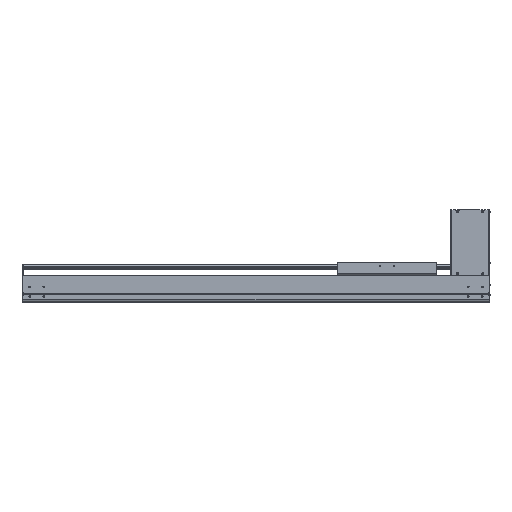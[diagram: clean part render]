
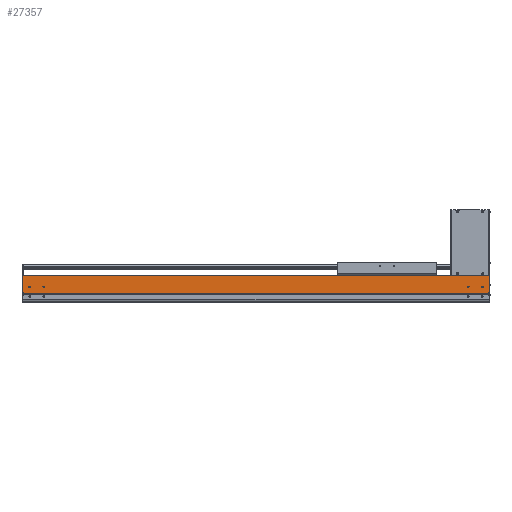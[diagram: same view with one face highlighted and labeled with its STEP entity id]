
A CAD part, top view. The second image highlights one B-rep face of the part: STEP entity #27357.
In plain terms, the highlighted planar face has unit normal (0, 0, 1).
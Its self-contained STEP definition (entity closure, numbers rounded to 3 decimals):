
#5003=DIRECTION('',(-1.,0.,0.));
#5004=VECTOR('',#5003,1648.5);
#5005=CARTESIAN_POINT('',(0.,93.5,107.));
#5006=LINE('',#5005,#5004);
#5042=CARTESIAN_POINT('',(0.,93.992,106.974));
#5043=CARTESIAN_POINT('',(0.,93.939,106.974));
#5044=CARTESIAN_POINT('',(0.,93.857,107.018));
#5045=CARTESIAN_POINT('',(0.,93.779,106.99));
#5046=CARTESIAN_POINT('',(0.,93.747,106.99));
#5048=CARTESIAN_POINT('',(0.,93.747,106.99));
#5049=CARTESIAN_POINT('',(0.,93.707,106.99));
#5050=CARTESIAN_POINT('',(0.,93.626,107.005));
#5051=CARTESIAN_POINT('',(0.,93.543,107.));
#5052=CARTESIAN_POINT('',(0.,93.5,107.));
#5054=CARTESIAN_POINT('',(-1623.5,54.,107.));
#5055=DIRECTION('',(0.,0.,-1.));
#5056=DIRECTION('',(1.,0.,0.));
#5057=AXIS2_PLACEMENT_3D('',#5054,#5055,#5056);
#5059=CARTESIAN_POINT('',(-1623.5,54.,107.));
#5060=DIRECTION('',(0.,0.,-1.));
#5061=DIRECTION('',(-1.,0.,0.));
#5062=AXIS2_PLACEMENT_3D('',#5059,#5060,#5061);
#5064=CARTESIAN_POINT('',(-1573.5,54.,107.));
#5065=DIRECTION('',(0.,0.,-1.));
#5066=DIRECTION('',(1.,0.,0.));
#5067=AXIS2_PLACEMENT_3D('',#5064,#5065,#5066);
#5069=CARTESIAN_POINT('',(-1573.5,54.,107.));
#5070=DIRECTION('',(0.,0.,-1.));
#5071=DIRECTION('',(-1.,0.,0.));
#5072=AXIS2_PLACEMENT_3D('',#5069,#5070,#5071);
#5074=CARTESIAN_POINT('',(-23.5,54.,107.));
#5075=DIRECTION('',(0.,0.,-1.));
#5076=DIRECTION('',(1.,0.,0.));
#5077=AXIS2_PLACEMENT_3D('',#5074,#5075,#5076);
#5079=CARTESIAN_POINT('',(-23.5,54.,107.));
#5080=DIRECTION('',(0.,0.,-1.));
#5081=DIRECTION('',(-1.,0.,0.));
#5082=AXIS2_PLACEMENT_3D('',#5079,#5080,#5081);
#5084=CARTESIAN_POINT('',(-73.5,54.,107.));
#5085=DIRECTION('',(0.,0.,-1.));
#5086=DIRECTION('',(1.,0.,0.));
#5087=AXIS2_PLACEMENT_3D('',#5084,#5085,#5086);
#5089=CARTESIAN_POINT('',(-73.5,54.,107.));
#5090=DIRECTION('',(0.,0.,-1.));
#5091=DIRECTION('',(-1.,0.,0.));
#5092=AXIS2_PLACEMENT_3D('',#5089,#5090,#5091);
#5094=DIRECTION('',(0.,-1.,0.));
#5095=VECTOR('',#5094,2.55);
#5096=CARTESIAN_POINT('',(-1646.5,34.65,107.));
#5097=LINE('',#5096,#5095);
#5098=DIRECTION('',(0.,-1.,0.));
#5099=VECTOR('',#5098,58.85);
#5100=CARTESIAN_POINT('',(-1648.5,93.5,107.));
#5101=LINE('',#5100,#5099);
#5102=DIRECTION('',(0.,1.,0.));
#5103=VECTOR('',#5102,58.35);
#5104=CARTESIAN_POINT('',(1.5,35.65,107.));
#5105=LINE('',#5104,#5103);
#5106=DIRECTION('',(0.,1.,0.));
#5107=VECTOR('',#5106,3.55);
#5108=CARTESIAN_POINT('',(0.,32.1,107.));
#5109=LINE('',#5108,#5107);
#5110=DIRECTION('',(1.,0.,0.));
#5111=VECTOR('',#5110,1646.5);
#5112=CARTESIAN_POINT('',(-1646.5,32.1,107.));
#5113=LINE('',#5112,#5111);
#5222=DIRECTION('',(1.,0.,0.));
#5223=VECTOR('',#5222,2.);
#5224=CARTESIAN_POINT('',(-1648.5,34.65,107.));
#5225=LINE('',#5224,#5223);
#5250=DIRECTION('',(-1.,-0.006,-0.017));
#5251=VECTOR('',#5250,1.5);
#5252=CARTESIAN_POINT('',(1.5,94.,107.));
#5253=LINE('',#5252,#5251);
#8770=DIRECTION('',(1.,0.,0.));
#8771=VECTOR('',#8770,1.5);
#8772=CARTESIAN_POINT('',(0.,35.65,107.));
#8773=LINE('',#8772,#8771);
#16136=CARTESIAN_POINT('',(1.5,94.,107.));
#16137=VERTEX_POINT('',#16136);
#16138=CARTESIAN_POINT('',(1.5,35.65,107.));
#16139=VERTEX_POINT('',#16138);
#16208=CARTESIAN_POINT('',(-1648.5,34.65,107.));
#16209=VERTEX_POINT('',#16208);
#16210=CARTESIAN_POINT('',(-1648.5,93.5,107.));
#16211=VERTEX_POINT('',#16210);
#16436=CARTESIAN_POINT('',(-1646.5,32.1,107.));
#16437=VERTEX_POINT('',#16436);
#16487=CARTESIAN_POINT('',(0.,32.1,107.));
#16489=VERTEX_POINT('',#16487);
#16982=CARTESIAN_POINT('',(-1621.,54.,107.));
#16983=CARTESIAN_POINT('',(-1626.,54.,107.));
#16984=VERTEX_POINT('',#16982);
#16985=VERTEX_POINT('',#16983);
#16986=CARTESIAN_POINT('',(-1571.,54.,107.));
#16987=CARTESIAN_POINT('',(-1576.,54.,107.));
#16988=VERTEX_POINT('',#16986);
#16989=VERTEX_POINT('',#16987);
#16990=CARTESIAN_POINT('',(-21.,54.,107.));
#16991=CARTESIAN_POINT('',(-26.,54.,107.));
#16992=VERTEX_POINT('',#16990);
#16993=VERTEX_POINT('',#16991);
#16994=CARTESIAN_POINT('',(-71.,54.,107.));
#16995=CARTESIAN_POINT('',(-76.,54.,107.));
#16996=VERTEX_POINT('',#16994);
#16997=VERTEX_POINT('',#16995);
#19020=CARTESIAN_POINT('',(0.,35.65,107.));
#19021=VERTEX_POINT('',#19020);
#19162=CARTESIAN_POINT('',(0.,93.975,106.923));
#19163=VERTEX_POINT('',#19162);
#19164=VERTEX_POINT('',#5046);
#19165=VERTEX_POINT('',#5052);
#19623=CARTESIAN_POINT('',(-1646.5,34.65,107.));
#19624=VERTEX_POINT('',#19623);
#27311=CARTESIAN_POINT('',(-823.25,62.8,107.));
#27312=DIRECTION('',(0.,0.,1.));
#27313=DIRECTION('',(0.,-1.,0.));
#27314=AXIS2_PLACEMENT_3D('',#27311,#27312,#27313);
#27315=PLANE('',#27314);
#27316=ORIENTED_EDGE('',*,*,#22821,.F.);
#27318=ORIENTED_EDGE('',*,*,#27317,.F.);
#27319=ORIENTED_EDGE('',*,*,#26384,.F.);
#27320=ORIENTED_EDGE('',*,*,#27289,.F.);
#27321=ORIENTED_EDGE('',*,*,#27306,.F.);
#27322=ORIENTED_EDGE('',*,*,#27304,.F.);
#27324=ORIENTED_EDGE('',*,*,#27323,.F.);
#27325=ORIENTED_EDGE('',*,*,#21352,.F.);
#27327=ORIENTED_EDGE('',*,*,#27326,.F.);
#27328=ORIENTED_EDGE('',*,*,#23579,.F.);
#27330=ORIENTED_EDGE('',*,*,#27329,.F.);
#27331=EDGE_LOOP('',(#27316,#27318,#27319,#27320,#27321,#27322,#27324,#27325,
#27327,#27328,#27330));
#27332=FACE_OUTER_BOUND('',#27331,.F.);
#27334=ORIENTED_EDGE('',*,*,#27333,.F.);
#27336=ORIENTED_EDGE('',*,*,#27335,.F.);
#27337=EDGE_LOOP('',(#27334,#27336));
#27338=FACE_BOUND('',#27337,.F.);
#27340=ORIENTED_EDGE('',*,*,#27339,.F.);
#27342=ORIENTED_EDGE('',*,*,#27341,.F.);
#27343=EDGE_LOOP('',(#27340,#27342));
#27344=FACE_BOUND('',#27343,.F.);
#27346=ORIENTED_EDGE('',*,*,#27345,.F.);
#27348=ORIENTED_EDGE('',*,*,#27347,.F.);
#27349=EDGE_LOOP('',(#27346,#27348));
#27350=FACE_BOUND('',#27349,.F.);
#27352=ORIENTED_EDGE('',*,*,#27351,.F.);
#27354=ORIENTED_EDGE('',*,*,#27353,.F.);
#27355=EDGE_LOOP('',(#27352,#27354));
#27356=FACE_BOUND('',#27355,.F.);
#27357=ADVANCED_FACE('',(#27332,#27338,#27344,#27350,#27356),#27315,.T.);
#5047=B_SPLINE_CURVE_WITH_KNOTS('',3,(#5042,#5043,#5044,#5045,#5046),
.UNSPECIFIED.,.F.,.F.,(4,1,4),(0.,0.5,1.),.UNSPECIFIED.);
#5053=B_SPLINE_CURVE_WITH_KNOTS('',3,(#5048,#5049,#5050,#5051,#5052),
.UNSPECIFIED.,.F.,.F.,(4,1,4),(0.,0.5,1.),.UNSPECIFIED.);
#5058=CIRCLE('',#5057,2.5);
#5063=CIRCLE('',#5062,2.5);
#5068=CIRCLE('',#5067,2.5);
#5073=CIRCLE('',#5072,2.5);
#5078=CIRCLE('',#5077,2.5);
#5083=CIRCLE('',#5082,2.5);
#5088=CIRCLE('',#5087,2.5);
#5093=CIRCLE('',#5092,2.5);
#21352=EDGE_CURVE('',#16139,#16137,#5105,.T.);
#22821=EDGE_CURVE('',#19624,#16437,#5097,.T.);
#23579=EDGE_CURVE('',#16489,#19021,#5109,.T.);
#26384=EDGE_CURVE('',#16211,#16209,#5101,.T.);
#27289=EDGE_CURVE('',#19165,#16211,#5006,.T.);
#27304=EDGE_CURVE('',#19163,#19164,#5047,.T.);
#27306=EDGE_CURVE('',#19164,#19165,#5053,.T.);
#27317=EDGE_CURVE('',#16209,#19624,#5225,.T.);
#27323=EDGE_CURVE('',#16137,#19163,#5253,.T.);
#27326=EDGE_CURVE('',#19021,#16139,#8773,.T.);
#27329=EDGE_CURVE('',#16437,#16489,#5113,.T.);
#27333=EDGE_CURVE('',#16988,#16989,#5068,.T.);
#27335=EDGE_CURVE('',#16989,#16988,#5073,.T.);
#27339=EDGE_CURVE('',#16992,#16993,#5078,.T.);
#27341=EDGE_CURVE('',#16993,#16992,#5083,.T.);
#27345=EDGE_CURVE('',#16996,#16997,#5088,.T.);
#27347=EDGE_CURVE('',#16997,#16996,#5093,.T.);
#27351=EDGE_CURVE('',#16984,#16985,#5058,.T.);
#27353=EDGE_CURVE('',#16985,#16984,#5063,.T.);
